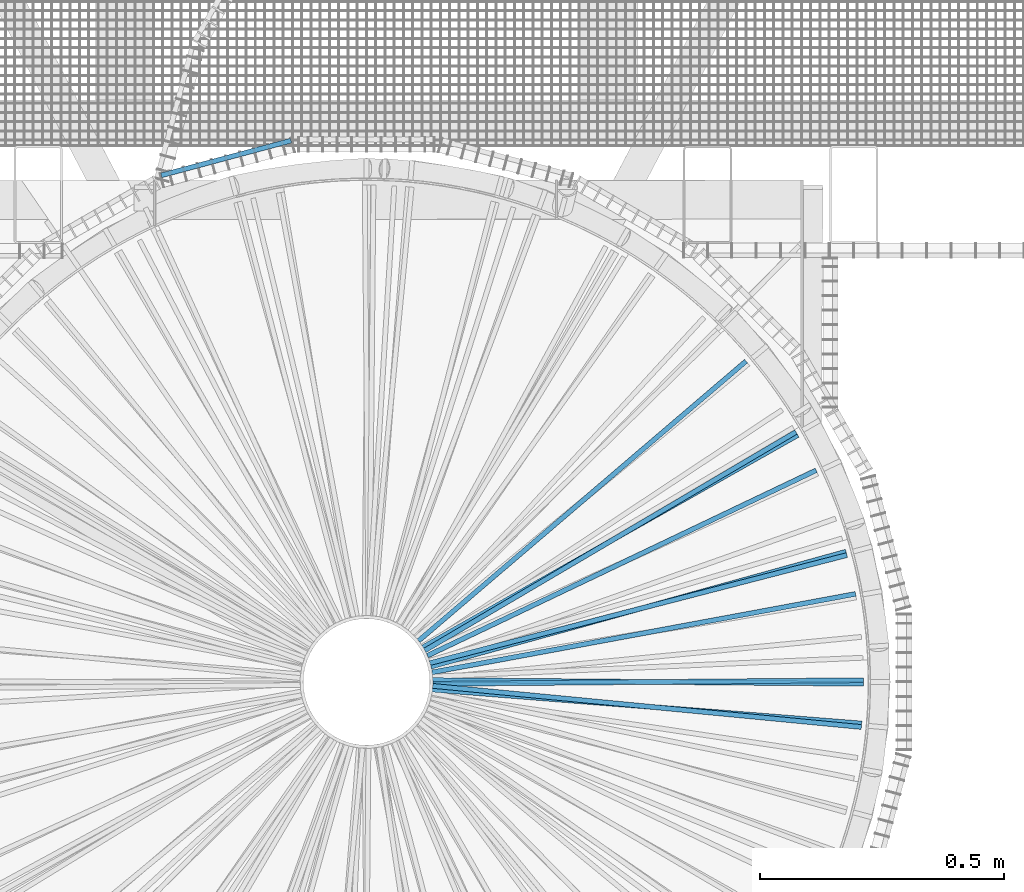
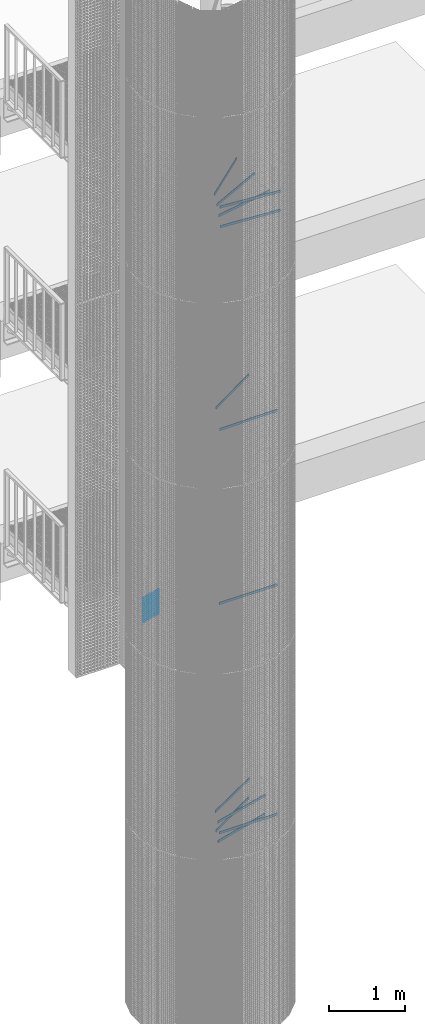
# One storey, part 316 of 1183: 27 beams, 4 elements without a shape of their own.
"""IFC2X3 building model written with IfcOpenShell, lengths in millimetres."""

from ifc_helpers import new_model, si_unit, frame, origin_with_axes, origin_2d_with_axis, place, context, subcontext, project, spatial, polyline, rectangle, outline, extrude, boolean, material, type_object, element, aggregate, save


model = new_model("IFC2X3")

# Units and contexts
model_context = context("Model", 3, precision=1e-05, world=origin_with_axes())
body_context = subcontext(model_context, "Body", "Model", "MODEL_VIEW")
ifc_project = project(units=[si_unit("LENGTHUNIT", "METRE", prefix="MILLI"), si_unit("AREAUNIT", "SQUARE_METRE"), si_unit("VOLUMEUNIT", "CUBIC_METRE"), si_unit("MASSUNIT", "GRAM", prefix="KILO"), si_unit("TIMEUNIT", "SECOND"), si_unit("PLANEANGLEUNIT", "RADIAN"), si_unit("SOLIDANGLEUNIT", "STERADIAN"), si_unit("THERMODYNAMICTEMPERATUREUNIT", "DEGREE_CELSIUS"), si_unit("LUMINOUSINTENSITYUNIT", "LUMEN")], contexts=[model_context])

# Site, building, storey
site_placement = place(None, origin_with_axes())
site = spatial("IfcSite", under=ifc_project, at=site_placement, Name="Undefined", CompositionType="ELEMENT")
building_placement = place(site_placement, origin_with_axes())
building = spatial("IfcBuilding", under=site, at=building_placement, Name="Undefined", CompositionType="ELEMENT")
storey_placement = place(building_placement, origin_with_axes())
storey = spatial("IfcBuildingStorey", under=building, at=storey_placement, Name="Undefined", CompositionType="ELEMENT", Elevation=0.0)

# Assembly, beams
assembly_1_placement = place(storey_placement, origin_with_axes())
assembly_1 = element("IfcElementAssembly", 1, at=assembly_1_placement, inside=storey, Name="BORDURE", AssemblyPlace="NOTDEFINED", PredefinedType="NOTDEFINED")
ifc_material = material(Name="STEEL/S235JR")
beam_type_1 = type_object("IfcBeamType", Name="PL2*10", PredefinedType="NOTDEFINED")
beam_1_placement = place(assembly_1_placement, frame((-154.895926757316, 1111.25508286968, 5970.0), z_axis=(-0.258819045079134, 0.965925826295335, 0.0), x_axis=(-0.965925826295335, -0.258819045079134, 0.0)))
beam_1 = element("IfcBeam", 2, at=beam_1_placement, type_object=beam_type_1, material=ifc_material, Name="ENTRETOISE", context=body_context, shape_type="SweptSolid", body=[
    extrude(rectangle(XDim=2.0, YDim=10.0, at=origin_2d_with_axis()), frame((275.999999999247, 9.09494701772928e-13, 1.53210777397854e-14), z_axis=(-1.0, 0.0, 0.0), x_axis=(0.0, -1.0, 0.0)), (0.0, 0.0, 1.0), 276.0),
])
beam_2_placement = place(assembly_1_placement, frame((-154.895926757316, 1111.25508286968, 5940.0), z_axis=(-0.258819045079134, 0.965925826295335, 0.0), x_axis=(-0.965925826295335, -0.258819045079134, 0.0)))
beam_2 = element("IfcBeam", 3, at=beam_2_placement, type_object=beam_type_1, material=ifc_material, Name="ENTRETOISE", context=body_context, shape_type="SweptSolid", body=[
    extrude(rectangle(XDim=2.0, YDim=10.0, at=origin_2d_with_axis()), frame((275.999999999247, 9.09494701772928e-13, 1.53210777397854e-14), z_axis=(-1.0, 0.0, 0.0), x_axis=(0.0, -1.0, 0.0)), (0.0, 0.0, 1.0), 276.0),
])
beam_3_placement = place(assembly_1_placement, frame((-154.895926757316, 1111.25508286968, 5910.0), z_axis=(-0.258819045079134, 0.965925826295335, 0.0), x_axis=(-0.965925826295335, -0.258819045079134, 0.0)))
beam_3 = element("IfcBeam", 4, at=beam_3_placement, type_object=beam_type_1, material=ifc_material, Name="ENTRETOISE", context=body_context, shape_type="SweptSolid", body=[
    extrude(rectangle(XDim=2.0, YDim=10.0, at=origin_2d_with_axis()), frame((275.999999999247, 9.09494701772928e-13, 1.53210777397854e-14), z_axis=(-1.0, 0.0, 0.0), x_axis=(0.0, -1.0, 0.0)), (0.0, 0.0, 1.0), 276.0),
])
beam_4_placement = place(assembly_1_placement, frame((-154.895926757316, 1111.25508286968, 5880.0), z_axis=(-0.258819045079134, 0.965925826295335, 0.0), x_axis=(-0.965925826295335, -0.258819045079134, 0.0)))
beam_4 = element("IfcBeam", 5, at=beam_4_placement, type_object=beam_type_1, material=ifc_material, Name="ENTRETOISE", context=body_context, shape_type="SweptSolid", body=[
    extrude(rectangle(XDim=2.0, YDim=10.0, at=origin_2d_with_axis()), frame((275.999999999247, 9.09494701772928e-13, 1.53210777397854e-14), z_axis=(-1.0, 0.0, 0.0), x_axis=(0.0, -1.0, 0.0)), (0.0, 0.0, 1.0), 276.0),
])
beam_5_placement = place(assembly_1_placement, frame((-154.895926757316, 1111.25508286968, 5850.0), z_axis=(-0.258819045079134, 0.965925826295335, 0.0), x_axis=(-0.965925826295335, -0.258819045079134, 0.0)))
beam_5 = element("IfcBeam", 6, at=beam_5_placement, type_object=beam_type_1, material=ifc_material, Name="ENTRETOISE", context=body_context, shape_type="SweptSolid", body=[
    extrude(rectangle(XDim=2.0, YDim=10.0, at=origin_2d_with_axis()), frame((275.999999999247, 9.09494701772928e-13, 1.53210777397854e-14), z_axis=(-1.0, 0.0, 0.0), x_axis=(0.0, -1.0, 0.0)), (0.0, 0.0, 1.0), 276.0),
])
beam_6_placement = place(assembly_1_placement, frame((-154.895926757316, 1111.25508286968, 5820.0), z_axis=(-0.258819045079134, 0.965925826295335, 0.0), x_axis=(-0.965925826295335, -0.258819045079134, 0.0)))
beam_6 = element("IfcBeam", 7, at=beam_6_placement, type_object=beam_type_1, material=ifc_material, Name="ENTRETOISE", context=body_context, shape_type="SweptSolid", body=[
    extrude(rectangle(XDim=2.0, YDim=10.0, at=origin_2d_with_axis()), frame((275.999999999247, 9.09494701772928e-13, 1.53210777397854e-14), z_axis=(-1.0, 0.0, 0.0), x_axis=(0.0, -1.0, 0.0)), (0.0, 0.0, 1.0), 276.0),
])
beam_7_placement = place(assembly_1_placement, frame((-154.895926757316, 1111.25508286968, 5790.0), z_axis=(-0.258819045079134, 0.965925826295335, 0.0), x_axis=(-0.965925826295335, -0.258819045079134, 0.0)))
beam_7 = element("IfcBeam", 8, at=beam_7_placement, type_object=beam_type_1, material=ifc_material, Name="ENTRETOISE", context=body_context, shape_type="SweptSolid", body=[
    extrude(rectangle(XDim=2.0, YDim=10.0, at=origin_2d_with_axis()), frame((275.999999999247, 9.09494701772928e-13, 1.53210777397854e-14), z_axis=(-1.0, 0.0, 0.0), x_axis=(0.0, -1.0, 0.0)), (0.0, 0.0, 1.0), 276.0),
])
beam_8_placement = place(assembly_1_placement, frame((-154.895926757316, 1111.25508286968, 5760.0), z_axis=(-0.258819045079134, 0.965925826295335, 0.0), x_axis=(-0.965925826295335, -0.258819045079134, 0.0)))
beam_8 = element("IfcBeam", 9, at=beam_8_placement, type_object=beam_type_1, material=ifc_material, Name="ENTRETOISE", context=body_context, shape_type="SweptSolid", body=[
    extrude(rectangle(XDim=2.0, YDim=10.0, at=origin_2d_with_axis()), frame((275.999999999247, 9.09494701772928e-13, 1.53210777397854e-14), z_axis=(-1.0, 0.0, 0.0), x_axis=(0.0, -1.0, 0.0)), (0.0, 0.0, 1.0), 276.0),
])
beam_9_placement = place(assembly_1_placement, frame((-154.895926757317, 1111.25508286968, 5730.0), z_axis=(-0.258819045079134, 0.965925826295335, 0.0), x_axis=(-0.965925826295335, -0.258819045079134, 0.0)))
beam_9 = element("IfcBeam", 10, at=beam_9_placement, type_object=beam_type_1, material=ifc_material, Name="ENTRETOISE", context=body_context, shape_type="SweptSolid", body=[
    extrude(rectangle(XDim=2.0, YDim=10.0, at=origin_2d_with_axis()), frame((275.999999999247, 9.09494701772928e-13, 1.53210777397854e-14), z_axis=(-1.0, 0.0, 0.0), x_axis=(0.0, -1.0, 0.0)), (0.0, 0.0, 1.0), 276.0),
])
beam_10_placement = place(assembly_1_placement, frame((-154.895926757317, 1111.25508286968, 5700.0), z_axis=(-0.258819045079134, 0.965925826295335, 0.0), x_axis=(-0.965925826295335, -0.258819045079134, 0.0)))
beam_10 = element("IfcBeam", 11, at=beam_10_placement, type_object=beam_type_1, material=ifc_material, Name="ENTRETOISE", context=body_context, shape_type="SweptSolid", body=[
    extrude(rectangle(XDim=2.0, YDim=10.0, at=origin_2d_with_axis()), frame((275.999999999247, 9.09494701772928e-13, 1.53210777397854e-14), z_axis=(-1.0, 0.0, 0.0), x_axis=(0.0, -1.0, 0.0)), (0.0, 0.0, 1.0), 276.0),
])
beam_11_placement = place(assembly_1_placement, frame((-154.895926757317, 1111.25508286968, 5670.0), z_axis=(-0.258819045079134, 0.965925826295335, 0.0), x_axis=(-0.965925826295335, -0.258819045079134, 0.0)))
beam_11 = element("IfcBeam", 12, at=beam_11_placement, type_object=beam_type_1, material=ifc_material, Name="ENTRETOISE", context=body_context, shape_type="SweptSolid", body=[
    extrude(rectangle(XDim=2.0, YDim=10.0, at=origin_2d_with_axis()), frame((275.999999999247, 9.09494701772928e-13, 1.53210777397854e-14), z_axis=(-1.0, 0.0, 0.0), x_axis=(0.0, -1.0, 0.0)), (0.0, 0.0, 1.0), 276.0),
])
beam_12_placement = place(assembly_1_placement, frame((-154.895926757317, 1111.25508286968, 5640.0), z_axis=(-0.258819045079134, 0.965925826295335, 0.0), x_axis=(-0.965925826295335, -0.258819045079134, 0.0)))
beam_12 = element("IfcBeam", 13, at=beam_12_placement, type_object=beam_type_1, material=ifc_material, Name="ENTRETOISE", context=body_context, shape_type="SweptSolid", body=[
    extrude(rectangle(XDim=2.0, YDim=10.0, at=origin_2d_with_axis()), frame((275.999999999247, 9.09494701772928e-13, 1.53210777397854e-14), z_axis=(-1.0, 0.0, 0.0), x_axis=(0.0, -1.0, 0.0)), (0.0, 0.0, 1.0), 276.0),
])
beam_13_placement = place(assembly_1_placement, frame((-154.895926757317, 1111.25508286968, 5610.0), z_axis=(-0.258819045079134, 0.965925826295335, 0.0), x_axis=(-0.965925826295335, -0.258819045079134, 0.0)))
beam_13 = element("IfcBeam", 14, at=beam_13_placement, type_object=beam_type_1, material=ifc_material, Name="ENTRETOISE", context=body_context, shape_type="SweptSolid", body=[
    extrude(rectangle(XDim=2.0, YDim=10.0, at=origin_2d_with_axis()), frame((275.999999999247, 9.09494701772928e-13, 1.53210777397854e-14), z_axis=(-1.0, 0.0, 0.0), x_axis=(0.0, -1.0, 0.0)), (0.0, 0.0, 1.0), 276.0),
])
beam_14_placement = place(assembly_1_placement, frame((-154.895926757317, 1111.25508286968, 5580.0), z_axis=(-0.258819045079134, 0.965925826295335, 0.0), x_axis=(-0.965925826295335, -0.258819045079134, 0.0)))
beam_14 = element("IfcBeam", 15, at=beam_14_placement, type_object=beam_type_1, material=ifc_material, Name="ENTRETOISE", context=body_context, shape_type="SweptSolid", body=[
    extrude(rectangle(XDim=2.0, YDim=10.0, at=origin_2d_with_axis()), frame((275.999999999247, 9.09494701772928e-13, 1.53210777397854e-14), z_axis=(-1.0, 0.0, 0.0), x_axis=(0.0, -1.0, 0.0)), (0.0, 0.0, 1.0), 276.0),
])
aggregate(assembly_1, [beam_1, beam_2, beam_3, beam_4, beam_5, beam_6, beam_7, beam_8, beam_9, beam_10, beam_11, beam_12, beam_13, beam_14])

assembly_2_placement = place(storey_placement, origin_with_axes())
assembly_2 = element("IfcElementAssembly", 16, at=assembly_2_placement, inside=storey, Name="POTEAU", AssemblyPlace="NOTDEFINED", PredefinedType="NOTDEFINED")
beam_type_2 = type_object("IfcBeamType", Name="PL10*40", PredefinedType="NOTDEFINED")
beam_15_placement = place(assembly_2_placement, frame((77.8961274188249, 31.5909713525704, 12726.84), z_axis=(0.0, 0.0, 1.0), x_axis=(0.902696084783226, 0.430278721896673, 0.0)))
beam_15 = element("IfcBeam", 17, at=beam_15_placement, type_object=beam_type_2, material=ifc_material, Name="RAIDISSEUR", context=body_context, shape_type="CSG", body=[
    boolean("DIFFERENCE", extrude(rectangle(XDim=10.0, YDim=40.0, at=origin_2d_with_axis()), frame((935.982964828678, -2.59787459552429e-14, -3.63797880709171e-12), z_axis=(-1.0, 0.0, 0.0), x_axis=(0.0, -1.0, 0.0)), (0.0, 0.0, 1.0), 935.98), extrude(outline(polyline([(0.0, 0.0), (30.5663019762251, -4.91127138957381e-11), (60.366242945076, 6.80164206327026), (87.9055294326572, 20.0638634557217), (111.803226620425, 39.1216410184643), (130.861004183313, 63.0193382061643), (144.123225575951, 90.5586246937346), (150.9248676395, 120.358565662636), (150.924867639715, 150.924867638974), (144.123225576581, 180.724808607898), (130.86100418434, 208.264095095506), (111.803226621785, 232.161792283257), (87.9055294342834, 251.219569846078), (60.3662429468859, 264.481791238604), (30.5663019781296, 271.283433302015), (1.90266291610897e-09, 271.28343330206), (-29.7999409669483, 264.481791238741), (-57.3392274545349, 251.219569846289), (-81.2369246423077, 232.161792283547), (-100.294702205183, 208.26409509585), (-113.556923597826, 180.724808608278), (-120.35856566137, 150.92486763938), (-120.358565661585, 120.358565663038), (-113.556923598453, 90.5586246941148), (-100.294702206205, 63.0193382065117), (-81.2369246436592, 39.1216410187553), (-57.3392274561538, 20.0638634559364), (-29.7999409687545, 6.80164206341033), (0.0, 0.0)])), frame((-205.624913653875, 66.786700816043, -22.4999999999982), z_axis=(0.0, 0.0, 1.0), x_axis=(-0.349966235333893, -0.936762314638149, 0.0)), (0.0, 0.0, 1.0), 45.0)),
])
beam_16_placement = place(assembly_2_placement, frame((83.4182262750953, 10.3535337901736, 12570.32), z_axis=(0.0, 0.0, 1.0), x_axis=(0.983301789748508, 0.181982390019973, 0.0)))
beam_16 = element("IfcBeam", 18, at=beam_16_placement, type_object=beam_type_2, material=ifc_material, Name="RAIDISSEUR", context=body_context, shape_type="CSG", body=[
    boolean("DIFFERENCE", extrude(rectangle(XDim=10.0, YDim=40.0, at=origin_2d_with_axis()), frame((935.982964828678, -2.59787459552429e-14, -3.63797880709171e-12), z_axis=(-1.0, 0.0, 0.0), x_axis=(0.0, -1.0, 0.0)), (0.0, 0.0, 1.0), 935.98), extrude(outline(polyline([(0.0, 0.0), (30.5663019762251, -4.91127138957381e-11), (60.366242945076, 6.80164206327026), (87.9055294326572, 20.0638634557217), (111.803226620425, 39.1216410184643), (130.861004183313, 63.0193382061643), (144.123225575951, 90.5586246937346), (150.9248676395, 120.358565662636), (150.924867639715, 150.924867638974), (144.123225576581, 180.724808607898), (130.86100418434, 208.264095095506), (111.803226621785, 232.161792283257), (87.9055294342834, 251.219569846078), (60.3662429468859, 264.481791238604), (30.5663019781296, 271.283433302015), (1.90266291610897e-09, 271.28343330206), (-29.7999409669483, 264.481791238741), (-57.3392274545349, 251.219569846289), (-81.2369246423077, 232.161792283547), (-100.294702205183, 208.26409509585), (-113.556923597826, 180.724808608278), (-120.35856566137, 150.92486763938), (-120.358565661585, 120.358565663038), (-113.556923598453, 90.5586246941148), (-100.294702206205, 63.0193382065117), (-81.2369246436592, 39.1216410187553), (-57.3392274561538, 20.0638634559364), (-29.7999409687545, 6.80164206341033), (0.0, 0.0)])), frame((-217.469134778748, 33.1790904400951, -22.5), z_axis=(0.0, 0.0, 1.0), x_axis=(-0.0955894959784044, -0.995420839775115, 0.0)), (0.0, 0.0, 1.0), 45.0)),
])
beam_17_placement = place(assembly_2_placement, frame((84.003164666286, -3.04375799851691, 12726.84), z_axis=(0.0, 0.0, 1.0), x_axis=(0.995420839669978, -0.0955894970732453, 0.0)))
beam_17 = element("IfcBeam", 19, at=beam_17_placement, type_object=beam_type_2, material=ifc_material, Name="RAIDISSEUR", context=body_context, shape_type="CSG", body=[
    boolean("DIFFERENCE", extrude(rectangle(XDim=10.0, YDim=40.0, at=origin_2d_with_axis()), frame((935.982964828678, -2.59787459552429e-14, -3.63797880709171e-12), z_axis=(-1.0, 0.0, 0.0), x_axis=(0.0, -1.0, 0.0)), (0.0, 0.0, 1.0), 935.98), extrude(outline(polyline([(0.0, 0.0), (30.5663019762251, -4.91127138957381e-11), (60.366242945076, 6.80164206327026), (87.9055294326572, 20.0638634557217), (111.803226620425, 39.1216410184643), (130.861004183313, 63.0193382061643), (144.123225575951, 90.5586246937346), (150.9248676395, 120.358565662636), (150.924867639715, 150.924867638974), (144.123225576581, 180.724808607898), (130.86100418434, 208.264095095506), (111.803226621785, 232.161792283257), (87.9055294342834, 251.219569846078), (60.3662429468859, 264.481791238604), (30.5663019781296, 271.283433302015), (1.90266291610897e-09, 271.28343330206), (-29.7999409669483, 264.481791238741), (-57.3392274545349, 251.219569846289), (-81.2369246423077, 232.161792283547), (-100.294702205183, 208.26409509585), (-113.556923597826, 180.724808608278), (-120.35856566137, 150.92486763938), (-120.358565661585, 120.358565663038), (-113.556923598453, 90.5586246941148), (-100.294702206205, 63.0193382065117), (-81.2369246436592, 39.1216410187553), (-57.3392274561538, 20.0638634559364), (-29.7999409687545, 6.80164206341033), (0.0, 0.0)])), frame((-220.067459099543, -14.6564540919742, -22.5000000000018), z_axis=(0.0, 0.0, 1.0), x_axis=(0.181982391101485, -0.983301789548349, 0.0)), (0.0, 0.0, 1.0), 45.0)),
])
beam_18_placement = place(assembly_2_placement, frame((67.0655362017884, 50.6755364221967, 12883.36), z_axis=(0.0, 0.0, 1.0), x_axis=(0.760573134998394, 0.649252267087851, 0.0)))
beam_18 = element("IfcBeam", 20, at=beam_18_placement, type_object=beam_type_2, material=ifc_material, Name="RAIDISSEUR", context=body_context, shape_type="CSG", body=[
    boolean("DIFFERENCE", extrude(rectangle(XDim=10.0, YDim=40.0, at=origin_2d_with_axis()), frame((935.982964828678, -2.59787459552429e-14, -3.63797880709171e-12), z_axis=(-1.0, 0.0, 0.0), x_axis=(0.0, -1.0, 0.0)), (0.0, 0.0, 1.0), 935.98), extrude(outline(polyline([(0.0, 0.0), (30.5663019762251, -4.91127138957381e-11), (60.366242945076, 6.80164206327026), (87.9055294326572, 20.0638634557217), (111.803226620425, 39.1216410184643), (130.861004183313, 63.0193382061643), (144.123225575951, 90.5586246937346), (150.9248676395, 120.358565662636), (150.924867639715, 150.924867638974), (144.123225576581, 180.724808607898), (130.86100418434, 208.264095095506), (111.803226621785, 232.161792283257), (87.9055294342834, 251.219569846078), (60.3662429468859, 264.481791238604), (30.5663019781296, 271.283433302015), (1.90266291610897e-09, 271.28343330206), (-29.7999409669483, 264.481791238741), (-57.3392274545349, 251.219569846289), (-81.2369246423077, 232.161792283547), (-100.294702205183, 208.26409509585), (-113.556923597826, 180.724808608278), (-120.35856566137, 150.92486763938), (-120.358565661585, 120.358565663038), (-113.556923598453, 90.5586246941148), (-100.294702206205, 63.0193382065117), (-81.2369246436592, 39.1216410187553), (-57.3392274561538, 20.0638634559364), (-29.7999409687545, 6.80164206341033), (0.0, 0.0)])), frame((-185.485984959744, 96.1836495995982, -22.5), z_axis=(0.0, 0.0, 1.0), x_axis=(-0.580493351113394, -0.814264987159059, 0.0)), (0.0, 0.0, 1.0), 45.0)),
])
beam_19_placement = place(assembly_2_placement, frame((83.2555108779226, -11.5894799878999, 12413.8), z_axis=(0.0, 0.0, 1.0), x_axis=(0.996897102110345, -0.0787157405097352, 0.0)))
beam_19 = element("IfcBeam", 21, at=beam_19_placement, type_object=beam_type_2, material=ifc_material, Name="RAIDISSEUR", context=body_context, shape_type="CSG", body=[
    boolean("DIFFERENCE", extrude(rectangle(XDim=10.0, YDim=40.0, at=origin_2d_with_axis()), frame((935.982964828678, -2.59787459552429e-14, -3.63797880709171e-12), z_axis=(-1.0, 0.0, 0.0), x_axis=(0.0, -1.0, 0.0)), (0.0, 0.0, 1.0), 935.98), extrude(outline(polyline([(0.0, 0.0), (30.5663019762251, -4.91127138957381e-11), (60.366242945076, 6.80164206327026), (87.9055294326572, 20.0638634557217), (111.803226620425, 39.1216410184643), (130.861004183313, 63.0193382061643), (144.123225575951, 90.5586246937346), (150.9248676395, 120.358565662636), (150.924867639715, 150.924867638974), (144.123225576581, 180.724808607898), (130.86100418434, 208.264095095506), (111.803226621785, 232.161792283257), (87.9055294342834, 251.219569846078), (60.3662429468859, 264.481791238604), (30.5663019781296, 271.283433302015), (1.90266291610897e-09, 271.28343330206), (-29.7999409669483, 264.481791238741), (-57.3392274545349, 251.219569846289), (-81.2369246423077, 232.161792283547), (-100.294702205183, 208.26409509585), (-113.556923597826, 180.724808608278), (-120.35856566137, 150.92486763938), (-120.358565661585, 120.358565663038), (-113.556923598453, 90.5586246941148), (-100.294702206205, 63.0193382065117), (-81.2369246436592, 39.1216410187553), (-57.3392274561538, 20.0638634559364), (-29.7999409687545, 6.80164206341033), (0.0, 0.0)])), frame((-220.211484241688, -2.34887818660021, -22.5000000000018), z_axis=(0.0, 0.0, 1.0), x_axis=(0.165301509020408, -0.986243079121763, 0.0)), (0.0, 0.0, 1.0), 45.0)),
])
aggregate(assembly_2, [beam_15, beam_16, beam_17, beam_18, beam_19])

assembly_3_placement = place(storey_placement, origin_with_axes())
assembly_3 = element("IfcElementAssembly", 22, at=assembly_3_placement, inside=storey, Name="POTEAU", AssemblyPlace="NOTDEFINED", PredefinedType="NOTDEFINED")
beam_20_placement = place(assembly_3_placement, frame((83.9487882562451, -4.28918262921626, 9126.84000000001), z_axis=(0.0, 0.0, 1.0), x_axis=(0.99996413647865, 0.00846910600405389, 0.0)))
beam_20 = element("IfcBeam", 23, at=beam_20_placement, type_object=beam_type_2, material=ifc_material, Name="RAIDISSEUR", context=body_context, shape_type="CSG", body=[
    boolean("DIFFERENCE", extrude(rectangle(XDim=10.0, YDim=40.0, at=origin_2d_with_axis()), frame((935.982964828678, -2.59787459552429e-14, -3.63797880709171e-12), z_axis=(-1.0, 0.0, 0.0), x_axis=(0.0, -1.0, 0.0)), (0.0, 0.0, 1.0), 935.98), extrude(outline(polyline([(0.0, 0.0), (30.5663019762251, -4.91127138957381e-11), (60.366242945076, 6.80164206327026), (87.9055294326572, 20.0638634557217), (111.803226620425, 39.1216410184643), (130.861004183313, 63.0193382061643), (144.123225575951, 90.5586246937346), (150.9248676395, 120.358565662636), (150.924867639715, 150.924867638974), (144.123225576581, 180.724808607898), (130.86100418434, 208.264095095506), (111.803226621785, 232.161792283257), (87.9055294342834, 251.219569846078), (60.3662429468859, 264.481791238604), (30.5663019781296, 271.283433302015), (1.90266291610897e-09, 271.28343330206), (-29.7999409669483, 264.481791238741), (-57.3392274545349, 251.219569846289), (-81.2369246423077, 232.161792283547), (-100.294702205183, 208.26409509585), (-113.556923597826, 180.724808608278), (-120.35856566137, 150.92486763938), (-120.358565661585, 120.358565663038), (-113.556923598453, 90.5586246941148), (-100.294702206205, 63.0193382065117), (-81.2369246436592, 39.1216410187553), (-57.3392274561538, 20.0638634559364), (-29.7999409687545, 6.80164206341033), (0.0, 0.0)])), frame((-220.333310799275, 9.55859125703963, -22.5000000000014), z_axis=(0.0, 0.0, 1.0), x_axis=(0.0787157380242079, -0.996897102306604, 0.0)), (0.0, 0.0, 1.0), 45.0)),
])
beam_21_placement = place(assembly_3_placement, frame((74.8463745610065, 38.2598530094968, 9439.88000000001), z_axis=(0.0, 0.0, 1.0), x_axis=(0.861759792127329, 0.507316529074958, 0.0)))
beam_21 = element("IfcBeam", 24, at=beam_21_placement, type_object=beam_type_2, material=ifc_material, Name="RAIDISSEUR", context=body_context, shape_type="CSG", body=[
    boolean("DIFFERENCE", extrude(rectangle(XDim=10.0, YDim=40.0, at=origin_2d_with_axis()), frame((935.982964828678, -2.59787459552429e-14, -3.63797880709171e-12), z_axis=(-1.0, 0.0, 0.0), x_axis=(0.0, -1.0, 0.0)), (0.0, 0.0, 1.0), 935.98), extrude(outline(polyline([(0.0, 0.0), (30.5663019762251, -4.91127138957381e-11), (60.366242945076, 6.80164206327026), (87.9055294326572, 20.0638634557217), (111.803226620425, 39.1216410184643), (130.861004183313, 63.0193382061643), (144.123225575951, 90.5586246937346), (150.9248676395, 120.358565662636), (150.924867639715, 150.924867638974), (144.123225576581, 180.724808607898), (130.86100418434, 208.264095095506), (111.803226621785, 232.161792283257), (87.9055294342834, 251.219569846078), (60.3662429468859, 264.481791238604), (30.5663019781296, 271.283433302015), (1.90266291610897e-09, 271.28343330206), (-29.7999409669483, 264.481791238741), (-57.3392274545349, 251.219569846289), (-81.2369246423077, 232.161792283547), (-100.294702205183, 208.26409509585), (-113.556923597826, 180.724808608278), (-120.35856566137, 150.92486763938), (-120.358565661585, 120.358565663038), (-113.556923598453, 90.5586246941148), (-100.294702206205, 63.0193382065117), (-81.2369246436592, 39.1216410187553), (-57.3392274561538, 20.0638634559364), (-29.7999409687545, 6.80164206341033), (0.0, 0.0)])), frame((-199.776683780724, 77.1597851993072, -22.4999999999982), z_axis=(0.0, 0.0, 1.0), x_axis=(-0.430278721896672, -0.902696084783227, 0.0)), (0.0, 0.0, 1.0), 45.0)),
])
aggregate(assembly_3, [beam_20, beam_21])

assembly_4_placement = place(storey_placement, origin_with_axes())
assembly_4 = element("IfcElementAssembly", 25, at=assembly_4_placement, inside=storey, Name="POTEAU", AssemblyPlace="NOTDEFINED", PredefinedType="NOTDEFINED")
beam_22_placement = place(assembly_4_placement, frame((79.978180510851, 25.8705774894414, 2757.36), z_axis=(0.0, 0.0, 1.0), x_axis=(0.968083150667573, 0.250629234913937, 0.0)))
beam_22 = element("IfcBeam", 26, at=beam_22_placement, type_object=beam_type_2, material=ifc_material, Name="RAIDISSEUR", context=body_context, shape_type="CSG", body=[
    boolean("DIFFERENCE", extrude(rectangle(XDim=10.0, YDim=40.0, at=origin_2d_with_axis()), frame((935.982964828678, -2.59787459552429e-14, -3.63797880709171e-12), z_axis=(-1.0, 0.0, 0.0), x_axis=(0.0, -1.0, 0.0)), (0.0, 0.0, 1.0), 935.98), extrude(outline(polyline([(0.0, 0.0), (30.5663019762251, -4.91127138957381e-11), (60.366242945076, 6.80164206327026), (87.9055294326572, 20.0638634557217), (111.803226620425, 39.1216410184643), (130.861004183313, 63.0193382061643), (144.123225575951, 90.5586246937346), (150.9248676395, 120.358565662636), (150.924867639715, 150.924867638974), (144.123225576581, 180.724808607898), (130.86100418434, 208.264095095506), (111.803226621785, 232.161792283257), (87.9055294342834, 251.219569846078), (60.3662429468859, 264.481791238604), (30.5663019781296, 271.283433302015), (1.90266291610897e-09, 271.28343330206), (-29.7999409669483, 264.481791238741), (-57.3392274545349, 251.219569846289), (-81.2369246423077, 232.161792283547), (-100.294702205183, 208.26409509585), (-113.556923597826, 180.724808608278), (-120.35856566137, 150.92486763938), (-120.358565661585, 120.358565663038), (-113.556923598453, 90.5586246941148), (-100.294702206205, 63.0193382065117), (-81.2369246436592, 39.1216410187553), (-57.3392274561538, 20.0638634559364), (-29.7999409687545, 6.80164206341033), (0.0, 0.0)])), frame((-215.15882831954, 32.4946825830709, -22.5), z_axis=(0.0, 0.0, 1.0), x_axis=(-0.165301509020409, -0.986243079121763, 0.0)), (0.0, 0.0, 1.0), 45.0)),
])
beam_23_placement = place(assembly_4_placement, frame((83.9487882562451, 4.28918262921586, 2602.84), z_axis=(0.0, 0.0, 1.0), x_axis=(0.99996413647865, -0.00846910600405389, 0.0)))
beam_23 = element("IfcBeam", 27, at=beam_23_placement, type_object=beam_type_2, material=ifc_material, Name="RAIDISSEUR", context=body_context, shape_type="CSG", body=[
    boolean("DIFFERENCE", extrude(rectangle(XDim=10.0, YDim=40.0, at=origin_2d_with_axis()), frame((935.982964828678, -2.59787459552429e-14, -3.63797880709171e-12), z_axis=(-1.0, 0.0, 0.0), x_axis=(0.0, -1.0, 0.0)), (0.0, 0.0, 1.0), 935.98), extrude(outline(polyline([(0.0, 0.0), (30.5663019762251, -4.91127138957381e-11), (60.366242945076, 6.80164206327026), (87.9055294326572, 20.0638634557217), (111.803226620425, 39.1216410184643), (130.861004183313, 63.0193382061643), (144.123225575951, 90.5586246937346), (150.9248676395, 120.358565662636), (150.924867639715, 150.924867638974), (144.123225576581, 180.724808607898), (130.86100418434, 208.264095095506), (111.803226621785, 232.161792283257), (87.9055294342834, 251.219569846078), (60.3662429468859, 264.481791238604), (30.5663019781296, 271.283433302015), (1.90266291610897e-09, 271.28343330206), (-29.7999409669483, 264.481791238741), (-57.3392274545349, 251.219569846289), (-81.2369246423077, 232.161792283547), (-100.294702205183, 208.26409509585), (-113.556923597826, 180.724808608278), (-120.35856566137, 150.92486763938), (-120.358565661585, 120.358565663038), (-113.556923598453, 90.5586246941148), (-100.294702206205, 63.0193382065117), (-81.2369246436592, 39.1216410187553), (-57.3392274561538, 20.0638634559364), (-29.7999409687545, 6.80164206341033), (0.0, 0.0)])), frame((-220.390952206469, -2.75275603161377, -22.5), z_axis=(0.0, 0.0, 1.0), x_axis=(0.0955894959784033, -0.995420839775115, 0.0)), (0.0, 0.0, 1.0), 45.0)),
])
beam_24_placement = place(assembly_4_placement, frame((70.5571919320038, 45.6889352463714, 2911.88), z_axis=(0.0, 0.0, 1.0), x_axis=(0.870228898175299, 0.492647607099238, 0.0)))
beam_24 = element("IfcBeam", 28, at=beam_24_placement, type_object=beam_type_2, material=ifc_material, Name="RAIDISSEUR", context=body_context, shape_type="CSG", body=[
    boolean("DIFFERENCE", extrude(rectangle(XDim=10.0, YDim=40.0, at=origin_2d_with_axis()), frame((935.982964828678, -2.59787459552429e-14, -3.63797880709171e-12), z_axis=(-1.0, 0.0, 0.0), x_axis=(0.0, -1.0, 0.0)), (0.0, 0.0, 1.0), 935.98), extrude(outline(polyline([(0.0, 0.0), (30.5663019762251, -4.91127138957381e-11), (60.366242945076, 6.80164206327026), (87.9055294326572, 20.0638634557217), (111.803226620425, 39.1216410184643), (130.861004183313, 63.0193382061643), (144.123225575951, 90.5586246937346), (150.9248676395, 120.358565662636), (150.924867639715, 150.924867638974), (144.123225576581, 180.724808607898), (130.86100418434, 208.264095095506), (111.803226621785, 232.161792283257), (87.9055294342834, 251.219569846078), (60.3662429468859, 264.481791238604), (30.5663019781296, 271.283433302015), (1.90266291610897e-09, 271.28343330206), (-29.7999409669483, 264.481791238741), (-57.3392274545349, 251.219569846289), (-81.2369246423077, 232.161792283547), (-100.294702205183, 208.26409509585), (-113.556923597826, 180.724808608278), (-120.35856566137, 150.92486763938), (-120.358565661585, 120.358565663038), (-113.556923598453, 90.5586246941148), (-100.294702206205, 63.0193382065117), (-81.2369246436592, 39.1216410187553), (-57.3392274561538, 20.0638634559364), (-29.7999409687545, 6.80164206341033), (0.0, 0.0)])), frame((-200.98227636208, 65.186920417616, -22.5), z_axis=(0.0, 0.0, 1.0), x_axis=(-0.414927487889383, -0.909854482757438, 0.0)), (0.0, 0.0, 1.0), 45.0)),
])
beam_25_placement = place(assembly_4_placement, frame((82.1984248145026, 17.5845129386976, 2448.32), z_axis=(0.0, 0.0, 1.0), x_axis=(0.963699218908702, 0.266990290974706, 0.0)))
beam_25 = element("IfcBeam", 29, at=beam_25_placement, type_object=beam_type_2, material=ifc_material, Name="RAIDISSEUR", context=body_context, shape_type="CSG", body=[
    boolean("DIFFERENCE", extrude(rectangle(XDim=10.0, YDim=40.0, at=origin_2d_with_axis()), frame((935.982964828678, -2.59787459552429e-14, -3.63797880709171e-12), z_axis=(-1.0, 0.0, 0.0), x_axis=(0.0, -1.0, 0.0)), (0.0, 0.0, 1.0), 935.98), extrude(outline(polyline([(0.0, 0.0), (30.5663019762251, -4.91127138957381e-11), (60.366242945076, 6.80164206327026), (87.9055294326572, 20.0638634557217), (111.803226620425, 39.1216410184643), (130.861004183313, 63.0193382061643), (144.123225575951, 90.5586246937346), (150.9248676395, 120.358565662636), (150.924867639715, 150.924867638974), (144.123225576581, 180.724808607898), (130.86100418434, 208.264095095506), (111.803226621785, 232.161792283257), (87.9055294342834, 251.219569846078), (60.3662429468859, 264.481791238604), (30.5663019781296, 271.283433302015), (1.90266291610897e-09, 271.28343330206), (-29.7999409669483, 264.481791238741), (-57.3392274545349, 251.219569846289), (-81.2369246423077, 232.161792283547), (-100.294702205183, 208.26409509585), (-113.556923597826, 180.724808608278), (-120.35856566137, 150.92486763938), (-120.358565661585, 120.358565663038), (-113.556923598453, 90.5586246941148), (-100.294702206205, 63.0193382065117), (-81.2369246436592, 39.1216410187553), (-57.3392274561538, 20.0638634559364), (-29.7999409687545, 6.80164206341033), (0.0, 0.0)])), frame((-214.504930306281, 44.7123538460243, -22.5), z_axis=(0.0, 0.0, 1.0), x_axis=(-0.181982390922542, -0.983301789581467, 0.0)), (0.0, 0.0, 1.0), 45.0)),
])
beam_26_placement = place(assembly_4_placement, frame((83.9487882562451, 4.28918262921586, 6311.32000000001), z_axis=(0.0, 0.0, 1.0), x_axis=(0.99996413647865, -0.00846910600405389, 0.0)))
beam_26 = element("IfcBeam", 30, at=beam_26_placement, type_object=beam_type_2, material=ifc_material, Name="RAIDISSEUR", context=body_context, shape_type="CSG", body=[
    boolean("DIFFERENCE", extrude(rectangle(XDim=10.0, YDim=40.0, at=origin_2d_with_axis()), frame((935.982964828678, -2.59787459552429e-14, -3.63797880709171e-12), z_axis=(-1.0, 0.0, 0.0), x_axis=(0.0, -1.0, 0.0)), (0.0, 0.0, 1.0), 935.98), extrude(outline(polyline([(0.0, 0.0), (30.5663019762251, -4.91127138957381e-11), (60.366242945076, 6.80164206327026), (87.9055294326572, 20.0638634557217), (111.803226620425, 39.1216410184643), (130.861004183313, 63.0193382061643), (144.123225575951, 90.5586246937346), (150.9248676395, 120.358565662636), (150.924867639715, 150.924867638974), (144.123225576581, 180.724808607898), (130.86100418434, 208.264095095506), (111.803226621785, 232.161792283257), (87.9055294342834, 251.219569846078), (60.3662429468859, 264.481791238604), (30.5663019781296, 271.283433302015), (1.90266291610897e-09, 271.28343330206), (-29.7999409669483, 264.481791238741), (-57.3392274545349, 251.219569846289), (-81.2369246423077, 232.161792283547), (-100.294702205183, 208.26409509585), (-113.556923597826, 180.724808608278), (-120.35856566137, 150.92486763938), (-120.358565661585, 120.358565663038), (-113.556923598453, 90.5586246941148), (-100.294702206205, 63.0193382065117), (-81.2369246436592, 39.1216410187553), (-57.3392274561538, 20.0638634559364), (-29.7999409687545, 6.80164206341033), (0.0, 0.0)])), frame((-220.390952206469, -2.75275603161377, -22.5), z_axis=(0.0, 0.0, 1.0), x_axis=(0.0955894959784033, -0.995420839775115, 0.0)), (0.0, 0.0, 1.0), 45.0)),
])
beam_27_placement = place(assembly_4_placement, frame((74.8463745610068, 38.2598530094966, 2602.84), z_axis=(0.0, 0.0, 1.0), x_axis=(0.861759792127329, 0.507316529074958, 0.0)))
beam_27 = element("IfcBeam", 31, at=beam_27_placement, type_object=beam_type_2, material=ifc_material, Name="RAIDISSEUR", context=body_context, shape_type="CSG", body=[
    boolean("DIFFERENCE", extrude(rectangle(XDim=10.0, YDim=40.0, at=origin_2d_with_axis()), frame((935.982964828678, -2.59787459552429e-14, -3.63797880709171e-12), z_axis=(-1.0, 0.0, 0.0), x_axis=(0.0, -1.0, 0.0)), (0.0, 0.0, 1.0), 935.98), extrude(outline(polyline([(0.0, 0.0), (30.5663019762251, -4.91127138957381e-11), (60.366242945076, 6.80164206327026), (87.9055294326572, 20.0638634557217), (111.803226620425, 39.1216410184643), (130.861004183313, 63.0193382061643), (144.123225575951, 90.5586246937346), (150.9248676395, 120.358565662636), (150.924867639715, 150.924867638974), (144.123225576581, 180.724808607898), (130.86100418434, 208.264095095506), (111.803226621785, 232.161792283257), (87.9055294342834, 251.219569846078), (60.3662429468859, 264.481791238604), (30.5663019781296, 271.283433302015), (1.90266291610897e-09, 271.28343330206), (-29.7999409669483, 264.481791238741), (-57.3392274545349, 251.219569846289), (-81.2369246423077, 232.161792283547), (-100.294702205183, 208.26409509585), (-113.556923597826, 180.724808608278), (-120.35856566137, 150.92486763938), (-120.358565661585, 120.358565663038), (-113.556923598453, 90.5586246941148), (-100.294702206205, 63.0193382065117), (-81.2369246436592, 39.1216410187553), (-57.3392274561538, 20.0638634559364), (-29.7999409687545, 6.80164206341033), (0.0, 0.0)])), frame((-199.776683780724, 77.1597851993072, -22.4999999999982), z_axis=(0.0, 0.0, 1.0), x_axis=(-0.430278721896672, -0.902696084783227, 0.0)), (0.0, 0.0, 1.0), 45.0)),
])
aggregate(assembly_4, [beam_22, beam_23, beam_24, beam_25, beam_26, beam_27])

save(model, "model.ifc")
